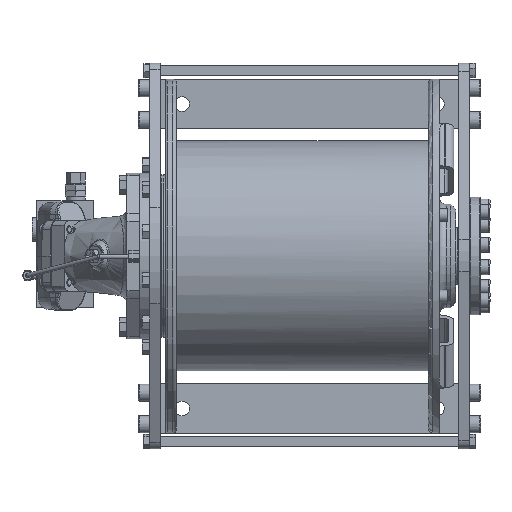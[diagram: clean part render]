
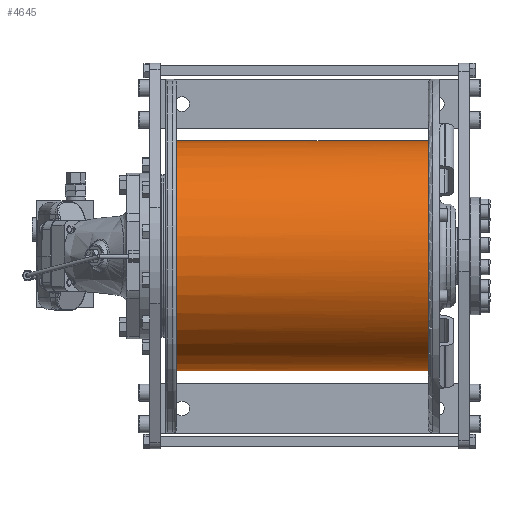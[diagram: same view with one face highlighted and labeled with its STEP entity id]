
A CAD part, top view. The second image highlights one B-rep face of the part: STEP entity #4645.
In plain terms, the highlighted cylindrical face has radius 162.495 mm (diameter 324.99 mm), a full revolution.
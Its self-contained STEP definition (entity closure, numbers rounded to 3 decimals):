
#4645 = ADVANCED_FACE( '', ( #10219, #10220 ), #10221, .T. );
#10219 = FACE_OUTER_BOUND( '', #21257, .T. );
#10220 = FACE_OUTER_BOUND( '', #21258, .T. );
#10221 = CYLINDRICAL_SURFACE( '', #21259, 162.495 );
#21257 = EDGE_LOOP( '', ( #41904 ) );
#21258 = EDGE_LOOP( '', ( #41905 ) );
#21259 = AXIS2_PLACEMENT_3D( '', #41906, #41907, #41908 );
#41904 = ORIENTED_EDGE( '', *, *, #56043, .T. );
#41905 = ORIENTED_EDGE( '', *, *, #56821, .F. );
#41906 = CARTESIAN_POINT( '', ( 394., 0., 0. ) );
#41907 = DIRECTION( '', ( 1., 0., 0. ) );
#41908 = DIRECTION( '', ( 0., 0., 1. ) );
#56043 = EDGE_CURVE( '', #66335, #66335, #66336, .T. );
#56821 = EDGE_CURVE( '', #67659, #67659, #67660, .T. );
#66335 = VERTEX_POINT( '', #86417 );
#66336 = CIRCLE( '', #86418, 162.495 );
#67659 = VERTEX_POINT( '', #89229 );
#67660 = CIRCLE( '', #89230, 162.495 );
#86417 = CARTESIAN_POINT( '', ( 394., 0., -162.495 ) );
#86418 = AXIS2_PLACEMENT_3D( '', #114293, #114294, #114295 );
#89229 = CARTESIAN_POINT( '', ( 38., 0., -162.495 ) );
#89230 = AXIS2_PLACEMENT_3D( '', #115151, #115152, #115153 );
#114293 = CARTESIAN_POINT( '', ( 394., 0., 0. ) );
#114294 = DIRECTION( '', ( -1., 0., 0. ) );
#114295 = DIRECTION( '', ( 0., 0., -1. ) );
#115151 = CARTESIAN_POINT( '', ( 38., 0., 0. ) );
#115152 = DIRECTION( '', ( -1., 0., 0. ) );
#115153 = DIRECTION( '', ( 0., 0., -1. ) );
